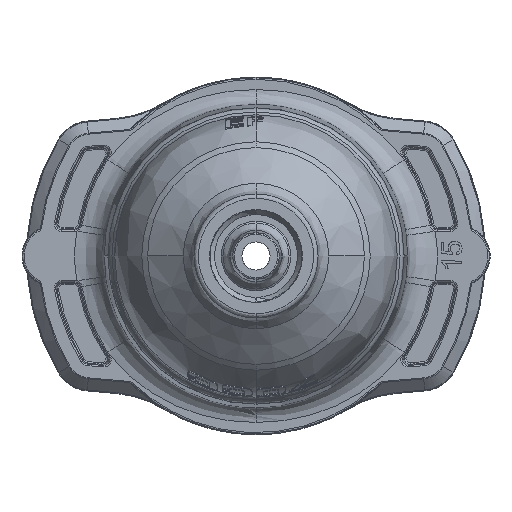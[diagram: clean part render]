
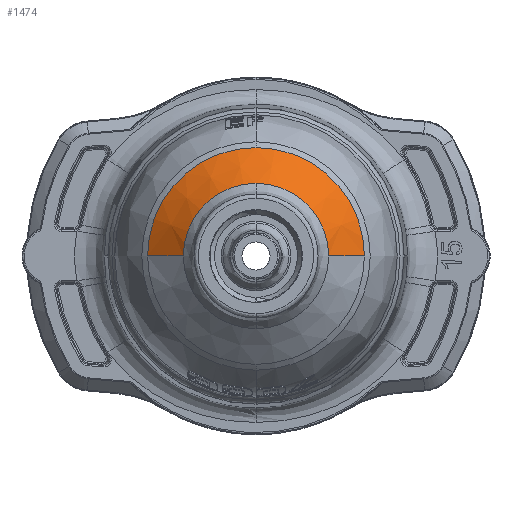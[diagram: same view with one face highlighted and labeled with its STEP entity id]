
A CAD part, front view. The second image highlights one B-rep face of the part: STEP entity #1474.
In plain terms, the highlighted conical face has half-angle 50 degrees and reference radius 9.292 mm.
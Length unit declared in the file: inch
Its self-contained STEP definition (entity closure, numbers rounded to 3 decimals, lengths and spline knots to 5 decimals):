
#1357 = DIRECTION ( 'NONE',  ( -1., 0., 0. ) ) ;
#1474 = ADVANCED_FACE ( 'NONE', ( #7393 ), #14784, .T. ) ;
#1790 = ORIENTED_EDGE ( 'NONE', *, *, #16800, .T. ) ;
#3251 = CARTESIAN_POINT ( 'NONE',  ( 0., 0.54882, 0. ) ) ;
#3321 = CIRCLE ( 'NONE', #23047, 0.24522 ) ;
#3906 = DIRECTION ( 'NONE',  ( 0., 1., 0. ) ) ;
#4159 = DIRECTION ( 'NONE',  ( 0., 1., 0. ) ) ;
#4524 = LINE ( 'NONE', #16115, #11041 ) ;
#4540 = ORIENTED_EDGE ( 'NONE', *, *, #16230, .F. ) ;
#6007 = CARTESIAN_POINT ( 'NONE',  ( 0.36583, 0.54882, 0. ) ) ;
#7393 = FACE_OUTER_BOUND ( 'NONE', #13772, .T. ) ;
#7610 = VERTEX_POINT ( 'NONE', #10121 ) ;
#8447 = CARTESIAN_POINT ( 'NONE',  ( -0.36583, 0.54882, 0. ) ) ;
#8527 = CIRCLE ( 'NONE', #12165, 0.36583 ) ;
#10121 = CARTESIAN_POINT ( 'NONE',  ( 0.24522, 0.44762, 0. ) ) ;
#10553 = AXIS2_PLACEMENT_3D ( 'NONE', #13883, #3906, #15517 ) ;
#11041 = VECTOR ( 'NONE', #23690, 39.37008 ) ;
#11373 = VERTEX_POINT ( 'NONE', #21804 ) ;
#11468 = VERTEX_POINT ( 'NONE', #12027 ) ;
#11475 = DIRECTION ( 'NONE',  ( 0., 0., 1. ) ) ;
#11706 = VERTEX_POINT ( 'NONE', #8447 ) ;
#11813 = CARTESIAN_POINT ( 'NONE',  ( -0.36583, 0.54882, 0. ) ) ;
#11976 = CARTESIAN_POINT ( 'NONE',  ( 0., 0.44762, 0. ) ) ;
#12027 = CARTESIAN_POINT ( 'NONE',  ( 0., 0.54882, 0.36583 ) ) ;
#12165 = AXIS2_PLACEMENT_3D ( 'NONE', #16443, #17959, #12413 ) ;
#12413 = DIRECTION ( 'NONE',  ( 0., 0., 1. ) ) ;
#13089 = VERTEX_POINT ( 'NONE', #6007 ) ;
#13524 = VERTEX_POINT ( 'NONE', #19462 ) ;
#13604 = ORIENTED_EDGE ( 'NONE', *, *, #18218, .F. ) ;
#13772 = EDGE_LOOP ( 'NONE', ( #19502, #1790, #18161, #13604, #4540, #18479 ) ) ;
#13796 = CIRCLE ( 'NONE', #17868, 0.36583 ) ;
#13883 = CARTESIAN_POINT ( 'NONE',  ( 0., 0.44762, 0. ) ) ;
#14090 = DIRECTION ( 'NONE',  ( -0.766, 0.643, 0. ) ) ;
#14784 = CONICAL_SURFACE ( 'NONE', #15196, 0.36583, 0.873 ) ;
#15196 = AXIS2_PLACEMENT_3D ( 'NONE', #3251, #18621, #1357 ) ;
#15517 = DIRECTION ( 'NONE',  ( 0., 0., 1. ) ) ;
#16115 = CARTESIAN_POINT ( 'NONE',  ( 0.36583, 0.54882, 0. ) ) ;
#16230 = EDGE_CURVE ( 'NONE', #11706, #11468, #8527, .T. ) ;
#16443 = CARTESIAN_POINT ( 'NONE',  ( 0., 0.54882, 0. ) ) ;
#16800 = EDGE_CURVE ( 'NONE', #13524, #7610, #3321, .T. ) ;
#16835 = EDGE_CURVE ( 'NONE', #11373, #13524, #17375, .T. ) ;
#17375 = CIRCLE ( 'NONE', #10553, 0.24522 ) ;
#17868 = AXIS2_PLACEMENT_3D ( 'NONE', #21738, #21989, #23739 ) ;
#17959 = DIRECTION ( 'NONE',  ( 0., 1., 0. ) ) ;
#18161 = ORIENTED_EDGE ( 'NONE', *, *, #21639, .T. ) ;
#18218 = EDGE_CURVE ( 'NONE', #11468, #13089, #13796, .T. ) ;
#18479 = ORIENTED_EDGE ( 'NONE', *, *, #24371, .F. ) ;
#18621 = DIRECTION ( 'NONE',  ( 0., 1., 0. ) ) ;
#19462 = CARTESIAN_POINT ( 'NONE',  ( 0., 0.44762, 0.24522 ) ) ;
#19502 = ORIENTED_EDGE ( 'NONE', *, *, #16835, .T. ) ;
#21541 = LINE ( 'NONE', #11813, #22363 ) ;
#21639 = EDGE_CURVE ( 'NONE', #7610, #13089, #4524, .T. ) ;
#21738 = CARTESIAN_POINT ( 'NONE',  ( 0., 0.54882, 0. ) ) ;
#21804 = CARTESIAN_POINT ( 'NONE',  ( -0.24522, 0.44762, 0. ) ) ;
#21989 = DIRECTION ( 'NONE',  ( 0., 1., 0. ) ) ;
#22363 = VECTOR ( 'NONE', #14090, 39.37008 ) ;
#23047 = AXIS2_PLACEMENT_3D ( 'NONE', #11976, #4159, #11475 ) ;
#23690 = DIRECTION ( 'NONE',  ( 0.766, 0.643, 0. ) ) ;
#23739 = DIRECTION ( 'NONE',  ( 0., 0., 1. ) ) ;
#24371 = EDGE_CURVE ( 'NONE', #11373, #11706, #21541, .T. ) ;
